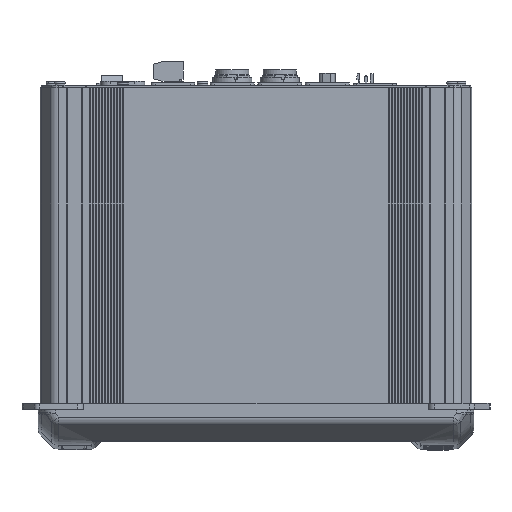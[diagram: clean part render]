
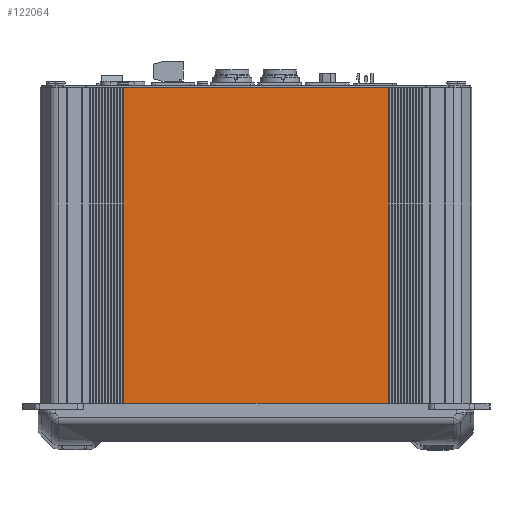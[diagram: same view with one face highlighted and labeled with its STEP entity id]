
A CAD part, front view. The second image highlights one B-rep face of the part: STEP entity #122064.
In plain terms, the highlighted planar face has unit normal (0, -1, 0).
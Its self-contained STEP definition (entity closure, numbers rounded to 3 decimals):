
#3917 = ORIENTED_EDGE ( 'NONE', *, *, #47689, .F. ) ;
#5917 = VECTOR ( 'NONE', #100280, 1000. ) ;
#5970 = CARTESIAN_POINT ( 'NONE',  ( -77.566, -46.3, 211.2 ) ) ;
#13324 = ORIENTED_EDGE ( 'NONE', *, *, #93567, .T. ) ;
#16102 = DIRECTION ( 'NONE',  ( 0., 0., -1. ) ) ;
#16813 = VECTOR ( 'NONE', #128351, 1000. ) ;
#19174 = EDGE_CURVE ( 'NONE', #67371, #87152, #83385, .T. ) ;
#26156 = DIRECTION ( 'NONE',  ( 0., 1., 0. ) ) ;
#28288 = LINE ( 'NONE', #5970, #99341 ) ;
#30089 = CARTESIAN_POINT ( 'NONE',  ( -119.432, -46.3, 211.2 ) ) ;
#31676 = CARTESIAN_POINT ( 'NONE',  ( 56.702, -46.3, 211.2 ) ) ;
#33463 = VECTOR ( 'NONE', #80439, 1000. ) ;
#35876 = PLANE ( 'NONE',  #73360 ) ;
#36210 = ORIENTED_EDGE ( 'NONE', *, *, #104356, .T. ) ;
#45100 = CARTESIAN_POINT ( 'NONE',  ( -77.566, -46.3, 211.2 ) ) ;
#47689 = EDGE_CURVE ( 'NONE', #67661, #103224, #60332, .T. ) ;
#60332 = LINE ( 'NONE', #70231, #33463 ) ;
#67371 = VERTEX_POINT ( 'NONE', #45100 ) ;
#67661 = VERTEX_POINT ( 'NONE', #92346 ) ;
#70231 = CARTESIAN_POINT ( 'NONE',  ( -119.432, -46.3, 372.2 ) ) ;
#73360 = AXIS2_PLACEMENT_3D ( 'NONE', #86690, #26156, #96775 ) ;
#76487 = ORIENTED_EDGE ( 'NONE', *, *, #19174, .T. ) ;
#79692 = EDGE_LOOP ( 'NONE', ( #3917, #13324, #76487, #36210 ) ) ;
#80439 = DIRECTION ( 'NONE',  ( 1., 0., 0. ) ) ;
#83385 = LINE ( 'NONE', #30089, #5917 ) ;
#86690 = CARTESIAN_POINT ( 'NONE',  ( -119.432, -46.3, 372.2 ) ) ;
#87152 = VERTEX_POINT ( 'NONE', #31676 ) ;
#92346 = CARTESIAN_POINT ( 'NONE',  ( -77.566, -46.3, 372.2 ) ) ;
#93512 = CARTESIAN_POINT ( 'NONE',  ( 56.702, -46.3, 372.2 ) ) ;
#93567 = EDGE_CURVE ( 'NONE', #67661, #67371, #28288, .T. ) ;
#96775 = DIRECTION ( 'NONE',  ( 0., 0., 1. ) ) ;
#97431 = LINE ( 'NONE', #118200, #16813 ) ;
#99341 = VECTOR ( 'NONE', #16102, 1000. ) ;
#100280 = DIRECTION ( 'NONE',  ( 1., 0., 0. ) ) ;
#103224 = VERTEX_POINT ( 'NONE', #93512 ) ;
#104356 = EDGE_CURVE ( 'NONE', #87152, #103224, #97431, .T. ) ;
#112082 = FACE_OUTER_BOUND ( 'NONE', #79692, .T. ) ;
#118200 = CARTESIAN_POINT ( 'NONE',  ( 56.702, -46.3, 372.2 ) ) ;
#122064 = ADVANCED_FACE ( 'NONE', ( #112082 ), #35876, .F. ) ;
#128351 = DIRECTION ( 'NONE',  ( 0., 0., 1. ) ) ;
